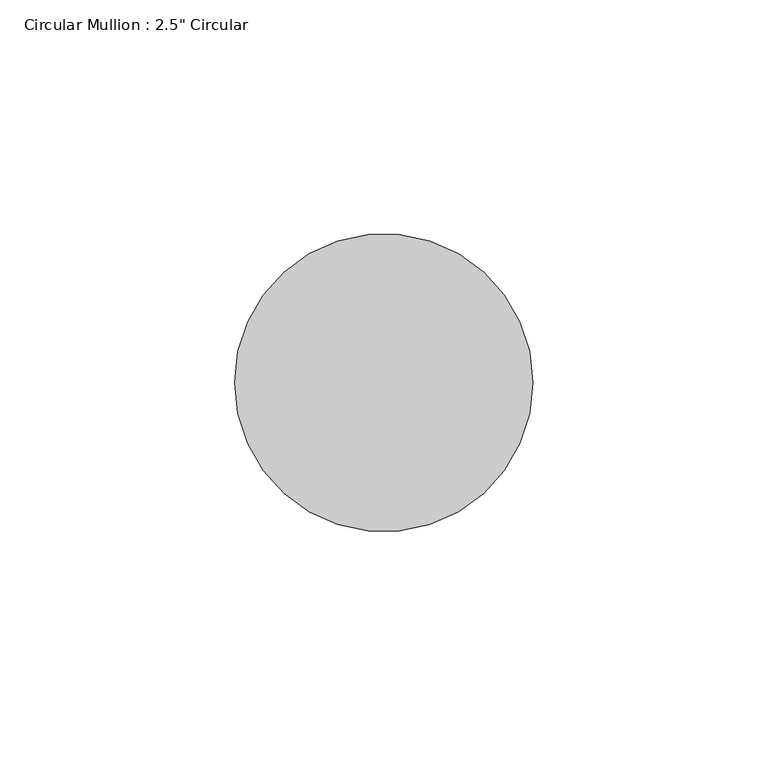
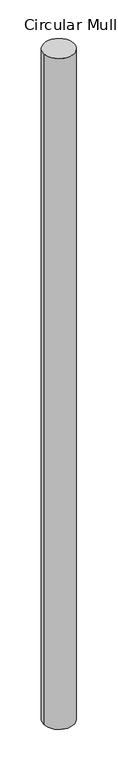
"""IFC4 building model written with IfcOpenShell, lengths in millimetres: member geometry."""

from ifc_helpers import new_model, si_unit, point, frame, origin, origin_2d, place, context, project, spatial, circle_curve, trimmed, segment, composite_curve, outline, extrude, source, transform, mapped, element, save


def member_632aa1b8(model_context):
    return source(origin(), model_context, "Body", "SweptSolid", [
        extrude(outline(composite_curve([segment(trimmed(circle_curve(origin_2d(), 31.75), [point((31.75, 0.0))], [point((-31.75, 0.0))], False, "CARTESIAN"), True, "CONTINUOUS"), segment(trimmed(circle_curve(origin_2d(), 31.75), [point((-31.75, 0.0))], [point((31.75, 0.0))], False, "CARTESIAN"), True, "CONTINUOUS")], self_intersect=False)), frame((0.0, 0.0, -1478.7378415), z_axis=(0.0, 0.0, 1.0), x_axis=(1.0, 0.0, 0.0)), (0.0, 0.0, 1.0), 1478.7378415),
    ])


if __name__ == "__main__":
    model = new_model("IFC4")
    model_context = context("Model", 3, world=origin())
    ifc_project = project(units=[si_unit("LENGTHUNIT", "METRE", prefix="MILLI")], contexts=[model_context])
    site = spatial("IfcSite", under=ifc_project)
    building = spatial("IfcBuilding", under=site)
    placement = place(None, origin())
    member_shape = member_632aa1b8(model_context)
    element("IfcMember", 1, ObjectType="Circular Mullion : 2.5\" Circular", at=placement, inside=building, context=model_context, shape_type="MappedRepresentation", body=[
        mapped(member_shape, transform((0.0, 0.0, 0.0), x_axis=(1.0, 0.0, 0.0), y_axis=(0.0, 1.0, 0.0), z_axis=(0.0, 0.0, 1.0))),
    ])
    save(model, "model.ifc")
